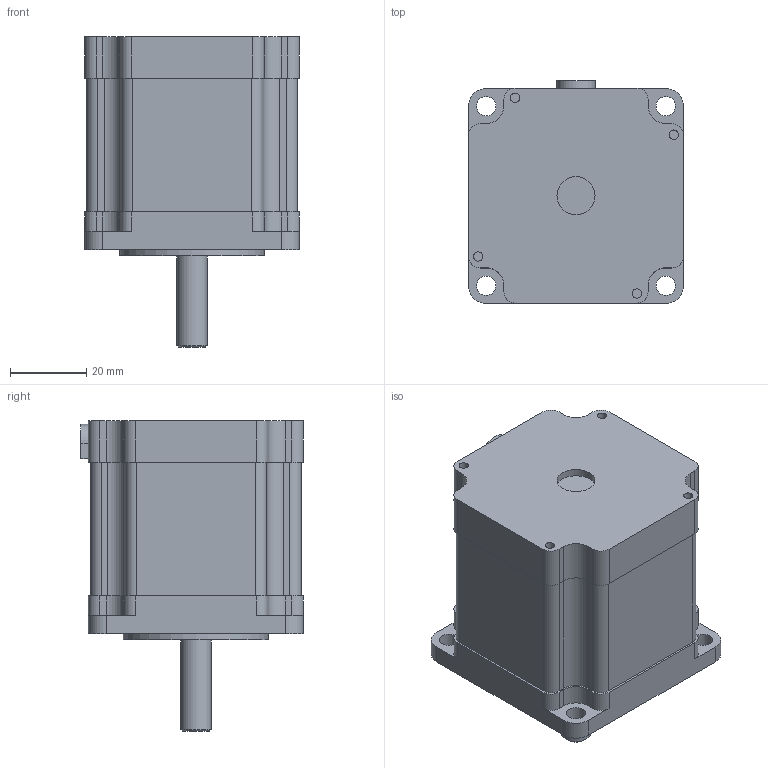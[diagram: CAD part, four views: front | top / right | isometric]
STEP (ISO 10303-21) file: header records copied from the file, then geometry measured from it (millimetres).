
FILE_DESCRIPTION(('STEP AP214'), '1');
FILE_NAME('PL57H56 d8 - Øàãîâûé ýëåêòðîäâèãàòåëü', '', ('UNSPECIFIED'), ('UNSPECIFIED'), 'ASCON STEP Converter 1.3', 'ASCON Math Kernel', '');
FILE_SCHEMA(('AUTOMOTIVE_DESIGN { 1 0 10303 214 3 1 1}'));
Length unit declared in the file: millimetre
Products named in the file (1): PL57H56-2.6-4
Bounding box: 56.4 x 58.4 x 81.6 mm (x, y, z)
Volume: 159301.7 mm3; surface area: 19239.1 mm2
Topology: 1 solids, 1 shells, 653 faces, 1808 edges, 1205 vertices
Faces by surface type: plane 303, cylinder 275, extrusion 74, cone 1
Full cylindrical faces by diameter (mm): 2.459 x4, 4 x1, 5.1 x4, 8 x1, 10 x1, 38.1 x1
Entity records: 26489 total; most frequent: CARTESIAN_POINT 4275, ORIENTED_EDGE 3590, DIRECTION 3432, EDGE_CURVE 1795, VERTEX_POINT 1205, VECTOR 1170, AXIS2_PLACEMENT_3D 1131, LINE 1096
